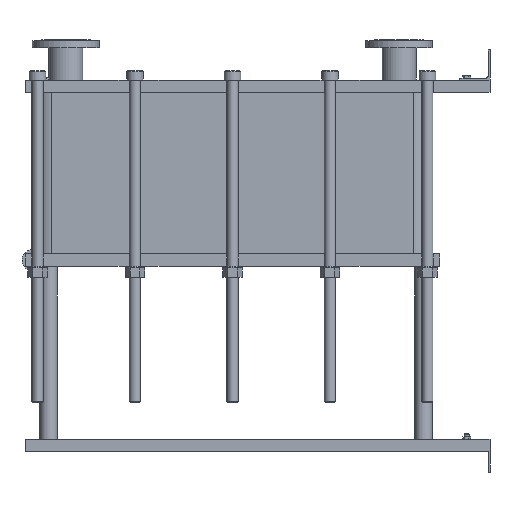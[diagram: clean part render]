
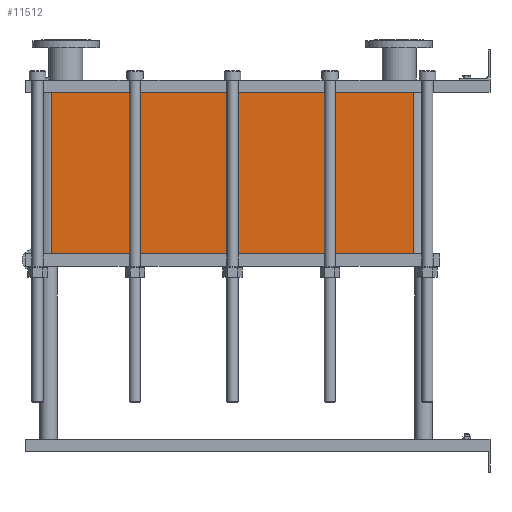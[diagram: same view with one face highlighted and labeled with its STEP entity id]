
A CAD part, left-side view. The second image highlights one B-rep face of the part: STEP entity #11512.
In plain terms, the highlighted planar face has unit normal (-1, 0, 0).
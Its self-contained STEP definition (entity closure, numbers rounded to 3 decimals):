
#1129=LINE('',#23232,#2102);
#1130=LINE('',#23236,#2103);
#1131=LINE('',#23238,#2104);
#1132=LINE('',#23239,#2105);
#2102=VECTOR('',#15887,10.);
#2103=VECTOR('',#15892,10.);
#2104=VECTOR('',#15893,10.);
#2105=VECTOR('',#15894,10.);
#3267=FACE_OUTER_BOUND('',#4093,.T.);
#4093=EDGE_LOOP('',(#10103,#10104,#10105,#10106));
#5642=VERTEX_POINT('',#23229);
#5643=VERTEX_POINT('',#23231);
#5644=VERTEX_POINT('',#23235);
#5645=VERTEX_POINT('',#23237);
#7159=EDGE_CURVE('',#5643,#5642,#1129,.T.);
#7161=EDGE_CURVE('',#5642,#5644,#1130,.T.);
#7162=EDGE_CURVE('',#5645,#5644,#1131,.T.);
#7163=EDGE_CURVE('',#5645,#5643,#1132,.T.);
#10103=ORIENTED_EDGE('',*,*,#7161,.T.);
#10104=ORIENTED_EDGE('',*,*,#7162,.F.);
#10105=ORIENTED_EDGE('',*,*,#7163,.T.);
#10106=ORIENTED_EDGE('',*,*,#7159,.T.);
#10857=PLANE('',#12751);
#11512=ADVANCED_FACE('',(#3267),#10857,.T.);
#12751=AXIS2_PLACEMENT_3D('',#23234,#15890,#15891);
#15887=DIRECTION('',(0.,0.,-1.));
#15890=DIRECTION('center_axis',(-1.,0.,0.));
#15891=DIRECTION('ref_axis',(0.,1.,0.));
#15892=DIRECTION('',(0.,-1.,0.));
#15893=DIRECTION('',(0.,0.,-1.));
#15894=DIRECTION('',(0.,1.,0.));
#23229=CARTESIAN_POINT('',(-200.,1414.,-520.95));
#23231=CARTESIAN_POINT('',(-200.,1414.,0.));
#23232=CARTESIAN_POINT('',(-200.,1414.,0.));
#23234=CARTESIAN_POINT('Origin',(-200.,248.,0.));
#23235=CARTESIAN_POINT('',(-200.,248.,-520.95));
#23236=CARTESIAN_POINT('',(-200.,539.5,-520.95));
#23237=CARTESIAN_POINT('',(-200.,248.,0.));
#23238=CARTESIAN_POINT('',(-200.,248.,0.));
#23239=CARTESIAN_POINT('',(-200.,248.,0.));
